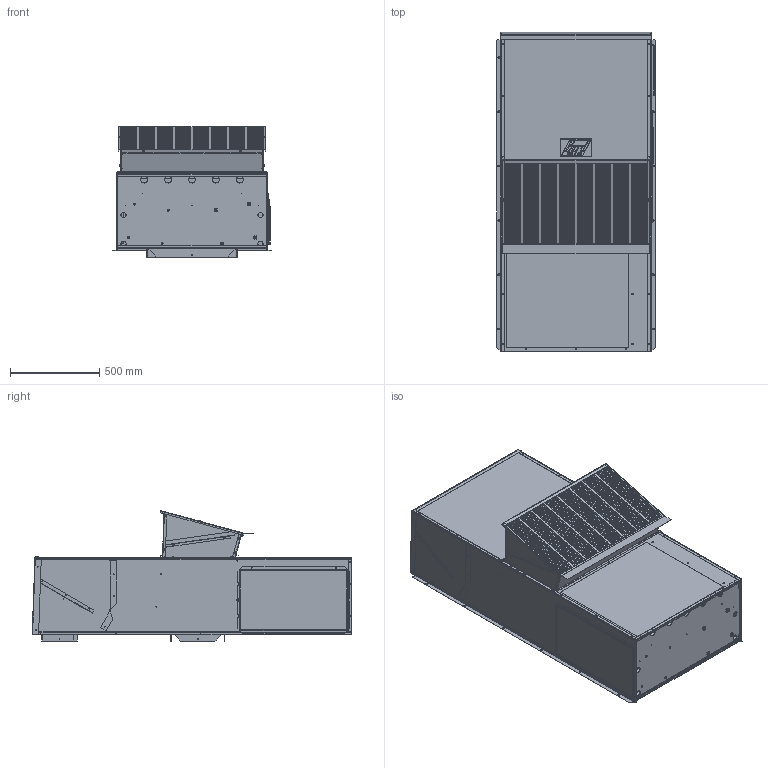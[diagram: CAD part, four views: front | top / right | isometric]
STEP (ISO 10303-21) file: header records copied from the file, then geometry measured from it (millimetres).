
FILE_DESCRIPTION (( 'STEP AP203' ), '1' );
FILE_NAME ('STEP_200-11.STEP', '2016-06-15T20:18:14', ( '' ), ( '' ), 'SwSTEP 2.0', 'SolidWorks 2016', '' );
FILE_SCHEMA (( 'CONFIG_CONTROL_DESIGN' ));
Products named in the file (1): STEP_200-11
Bounding box: 888.56 x 1792.17 x 731 mm (x, y, z)
Volume: 28250294.3 mm3; surface area: 16634319.6 mm2
Topology: 106 solids, 106 shells, 6497 faces, 17562 edges, 11341 vertices
Faces by surface type: plane 3632, cylinder 1852, bspline 873, cone 140
Entity records: 234813 total; most frequent: CARTESIAN_POINT 71720, ORIENTED_EDGE 34972, DIRECTION 31902, EDGE_CURVE 17486, LINE 11620, VECTOR 11620, VERTEX_POINT 11341, AXIS2_PLACEMENT_3D 10141
